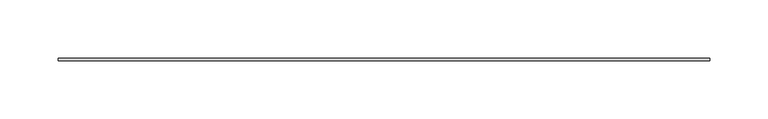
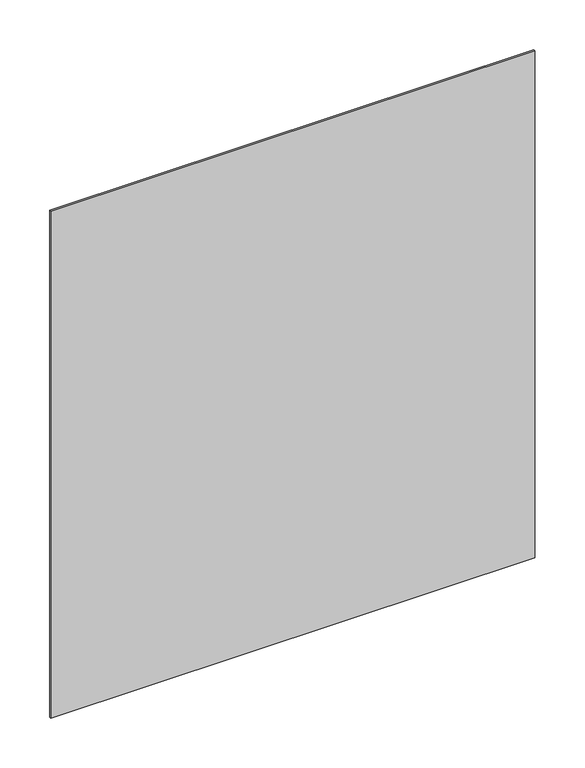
"""IFC4 building model written with IfcOpenShell, lengths in millimetres: electric distribution board geometry, DKC_Монтажная плата Фиберглас : DKC_Монтажная плата Фиберглас."""

from ifc_helpers import new_model, si_unit, frame, origin, place, context, project, spatial, polyline, outline, extrude, source, transform, mapped, element, save


def electric_distribution_board_76c4b265(model_context):
    return source(origin(), model_context, "Body", "SweptSolid", [
        extrude(outline(polyline([(280.0, -49.0), (280.0, -51.0), (-280.0, -51.0), (-280.0, -49.0), (280.0, -49.0)])), frame((0.0, 0.0, 50.0), z_axis=(0.0, 0.0, 1.0), x_axis=(1.0, 0.0, 0.0)), (0.0, 0.0, 1.0), 620.0),
    ])


if __name__ == "__main__":
    model = new_model("IFC4")
    model_context = context("Model", 3, world=origin())
    ifc_project = project(units=[si_unit("LENGTHUNIT", "METRE", prefix="MILLI")], contexts=[model_context])
    site = spatial("IfcSite", under=ifc_project)
    building = spatial("IfcBuilding", under=site)
    placement = place(None, origin())
    electric_distribution_board_shape = electric_distribution_board_76c4b265(model_context)
    element("IfcElectricDistributionBoard", 1, ObjectType="DKC_Монтажная плата Фиберглас : DKC_Монтажная плата Фиберглас", at=placement, inside=building, context=model_context, shape_type="MappedRepresentation", body=[
        mapped(electric_distribution_board_shape, transform((0.0, 0.0, 0.0), x_axis=(1.0, 0.0, 0.0), y_axis=(0.0, 1.0, 0.0), z_axis=(0.0, 0.0, 1.0))),
    ])
    save(model, "model.ifc")
